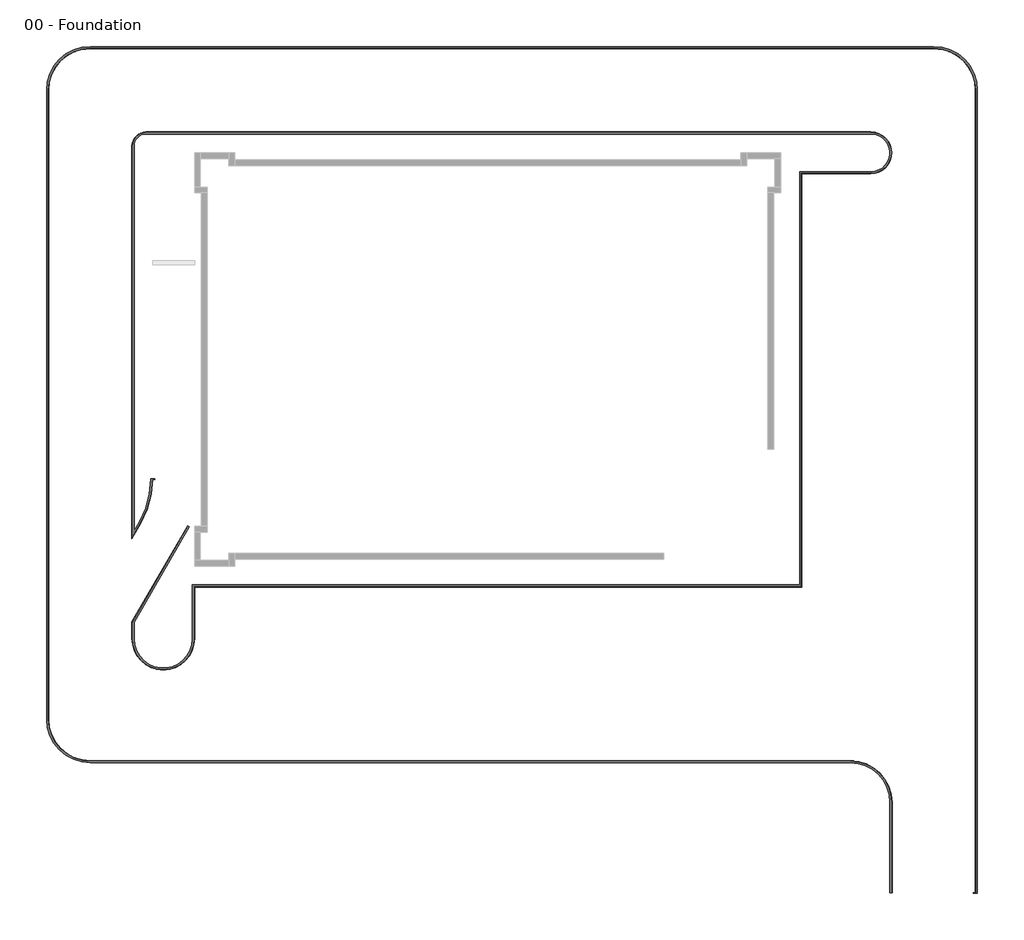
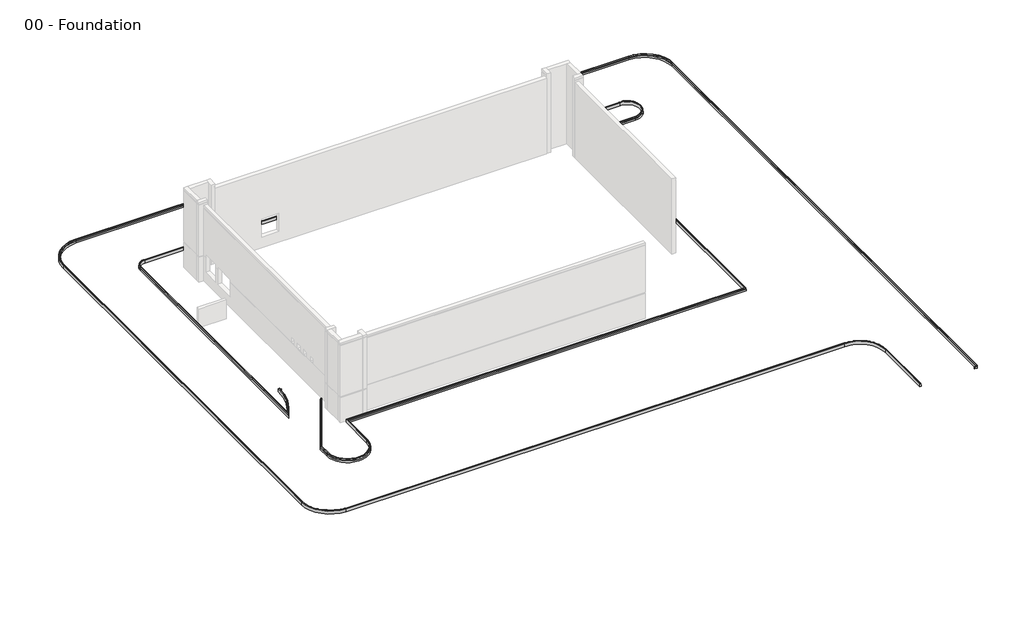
# One storey, part 2 of 2: 1 proxy.
"""IFC4 building model written with IfcOpenShell, lengths in millimetres."""

from ifc_helpers import new_model, si_unit, point, frame, origin, place, context, project, spatial, polyline, circle_curve, ellipse_curve, trimmed, element, save
from ifc_brep_helpers import plane_surface, cylinder_surface, revolved_surface, advanced_brep

model = new_model("IFC4")

# Units and contexts
model_context = context("Model", 3, world=origin())
ifc_project = project(units=[si_unit("LENGTHUNIT", "METRE", prefix="MILLI")], contexts=[model_context])

# Site, building, storey
site = spatial("IfcSite", under=ifc_project)
building = spatial("IfcBuilding", under=site)
storey = spatial("IfcBuildingStorey", under=building, Name="00 - Foundation", Elevation=-1250.0)

# Proxy
placement = place(None, origin())
element("IfcBuildingElementProxy", 1, Name="Curb", ObjectType="Curb", at=placement, inside=storey, context=model_context, shape_type="AdvancedBrep", body=[
    advanced_brep(
    [(33302.6061884, -38456.9313057, -36.4135952), (33280.5272279, -38456.9313057, -150.0), (33130.5272279, -38456.9313057, -150.0), (33130.5272279, -38456.9313057, -350.0), (33430.5272279, -38456.9313057, -350.0), (33430.5272279, -38456.9313057, 0.0), (33346.7794117, -38456.9313057, 0.0), (33302.6061884, 19343.0686943, -36.4135952), (33280.5272279, 19343.0686943, -150.0), (33280.5272279, -38406.9313057, -150.0), (33130.5272279, -38406.9313057, -150.0), (33130.5272279, -38406.9313057, -350.0), (33280.5272279, -38406.9313057, -350.0), (33280.5272279, 19343.0686943, -350.0), (33430.5272279, 19343.0686943, -350.0), (33430.5272279, 19343.0686943, 0.0), (33346.7794117, 19343.0686943, 0.0), (30280.5272279, 22343.0686943, -150.0), (30280.5272279, 22343.0686943, -350.0), (27280.5272279, -38406.9313057, -150.0), (27258.4482674, -38406.9313057, -36.4135952), (27214.2750442, -38406.9313057, 0.0), (27130.5272279, -38406.9313057, 0.0), (27130.5272279, -38406.9313057, -350.0), (27280.5272279, -38406.9313057, -350.0), (27280.5272279, -31906.9313057, -150.0), (27258.4482674, -31906.9313057, -36.4135952), (27130.5272279, -31906.9313057, -350.0), (27280.5272279, -31906.9313057, -350.0), (27130.5272279, -31906.9313057, 0.0), (27214.2750442, -31906.9313057, 0.0), (24280.5272279, -28906.9313057, -350.0), (24280.5272279, -28906.9313057, -150.0), (24280.5272279, -28929.0102661, -36.4135952), (24280.5272279, -29056.9313057, -350.0), (24280.5272279, -29056.9313057, 0.0), (24280.5272279, -28973.1834894, 0.0), (-30419.4727721, -28906.9313057, -350.0), (-30419.4727721, -28906.9313057, -150.0), (-30419.4727721, -28929.0102661, -36.4135952), (-30419.4727721, -29056.9313057, -350.0), (-30419.4727721, -29056.9313057, 0.0), (-30419.4727721, -28973.1834894, 0.0), (-33419.4727721, -25906.9313057, -350.0), (-33419.4727721, -25906.9313057, -150.0), (-33419.4727721, 19343.0686943, -150.0), (-33419.4727721, 19343.0686943, -350.0), (-30419.4727721, 22343.0686943, -350.0), (-30419.4727721, 22343.0686943, -150.0), (-33441.5517326, -25906.9313057, -36.4135952), (-33569.4727721, -25906.9313057, -350.0), (-33569.4727721, -25906.9313057, 0.0), (-33485.7249558, -25906.9313057, 0.0), (-33441.5517326, 19343.0686943, -36.4135952), (-33569.4727721, 19343.0686943, -350.0), (-33569.4727721, 19343.0686943, 0.0), (-33485.7249558, 19343.0686943, 0.0), (-30419.4727721, 22365.1476548, -36.4135952), (-30419.4727721, 22493.0686943, -350.0), (-30419.4727721, 22493.0686943, 0.0), (-30419.4727721, 22409.3208781, 0.0), (30280.5272279, 22365.1476548, -36.4135952), (30280.5272279, 22493.0686943, -350.0), (30280.5272279, 22493.0686943, 0.0), (30280.5272279, 22409.3208781, 0.0)],
    [
        (0, 1),
        (1, 2),
        (2, 3),
        (3, 4),
        (4, 5),
        (5, 6),
        (6, 0, circle_curve(frame((33346.7794117, -38456.9313057, -45.0), z_axis=(0.0, -1.0, 0.0), x_axis=(1.0, 0.0, 0.0)), 45.0)),
        (0, 7),
        (7, 8),
        (8, 9),
        (9, 1),
        (9, 10),
        (10, 2),
        (10, 11),
        (11, 3),
        (11, 12),
        (12, 13),
        (13, 14),
        (14, 4),
        (14, 15),
        (15, 5),
        (15, 16),
        (16, 6),
        (16, 7, circle_curve(frame((33346.7794117, 19343.0686943, -45.0), z_axis=(0.0, -1.0, 0.0), x_axis=(1.0, 0.0, 0.0)), 45.0)),
        (13, 8),
        (8, 17, circle_curve(frame((30280.5272279, 19343.0686943, -150.0), z_axis=(0.0, 0.0, 1.0), x_axis=(1.0, 0.0, 0.0)), 3000.0)),
        (17, 18),
        (18, 13, circle_curve(frame((30280.5272279, 19343.0686943, -350.0), z_axis=(0.0, 0.0, -1.0), x_axis=(1.0, 0.0, 0.0)), 3000.0)),
        (12, 9),
        (19, 20),
        (20, 21, circle_curve(frame((27214.2750442, -38406.9313057, -45.0), z_axis=(0.0, -1.0, 0.0), x_axis=(-1.0, 0.0, 0.0)), 45.0)),
        (21, 22),
        (22, 23),
        (23, 24),
        (24, 19),
        (25, 26),
        (26, 20),
        (19, 25),
        (23, 27),
        (27, 28),
        (28, 24),
        (29, 27),
        (22, 29),
        (30, 29),
        (21, 30),
        (26, 30, circle_curve(frame((27214.2750442, -31906.9313057, -45.0), z_axis=(0.0, -1.0, 0.0), x_axis=(-1.0, 0.0, 0.0)), 45.0)),
        (28, 25),
        (28, 31, circle_curve(frame((24280.5272279, -31906.9313057, -350.0), z_axis=(0.0, 0.0, 1.0), x_axis=(1.0, 0.0, 0.0)), 3000.0)),
        (31, 32),
        (32, 25, circle_curve(frame((24280.5272279, -31906.9313057, -150.0), z_axis=(0.0, 0.0, -1.0), x_axis=(1.0, 0.0, 0.0)), 3000.0)),
        (32, 33),
        (33, 26, circle_curve(frame((24280.5272279, -31906.9313057, -36.4135952), z_axis=(0.0, 0.0, -1.0), x_axis=(0.0, 1.0, 0.0)), 2977.9210395)),
        (27, 34, circle_curve(frame((24280.5272279, -31906.9313057, -350.0), z_axis=(0.0, 0.0, 1.0), x_axis=(0.0, 1.0, 0.0)), 2850.0)),
        (34, 31),
        (29, 35, circle_curve(frame((24280.5272279, -31906.9313057, 0.0), z_axis=(0.0, 0.0, 1.0), x_axis=(0.0, 1.0, 0.0)), 2850.0)),
        (35, 34),
        (30, 36, circle_curve(frame((24280.5272279, -31906.9313057, 0.0), z_axis=(0.0, 0.0, 1.0), x_axis=(0.0, 1.0, 0.0)), 2933.7478163)),
        (36, 35),
        (33, 36, circle_curve(frame((24280.5272279, -28973.1834894, -45.0), z_axis=(1.0, 0.0, 0.0), x_axis=(0.0, -1.0, 0.0)), 45.0)),
        (31, 37),
        (37, 38),
        (38, 32),
        (38, 39),
        (39, 33),
        (34, 40),
        (40, 37),
        (35, 41),
        (41, 40),
        (36, 42),
        (42, 41),
        (39, 42, circle_curve(frame((-30419.4727721, -28973.1834894, -45.0), z_axis=(1.0, 0.0, 0.0), x_axis=(0.0, -1.0, 0.0)), 45.0)),
        (37, 43, circle_curve(frame((-30419.4727721, -25906.9313057, -350.0), z_axis=(0.0, 0.0, -1.0), x_axis=(1.0, 0.0, 0.0)), 3000.0)),
        (43, 44),
        (44, 38, circle_curve(frame((-30419.4727721, -25906.9313057, -150.0), z_axis=(0.0, 0.0, 1.0), x_axis=(1.0, 0.0, 0.0)), 3000.0)),
        (45, 46),
        (46, 47, circle_curve(frame((-30419.4727721, 19343.0686943, -350.0), z_axis=(0.0, 0.0, -1.0), x_axis=(1.0, 0.0, 0.0)), 3000.0)),
        (47, 48),
        (48, 45, circle_curve(frame((-30419.4727721, 19343.0686943, -150.0), z_axis=(0.0, 0.0, 1.0), x_axis=(1.0, 0.0, 0.0)), 3000.0)),
        (44, 49),
        (49, 39, circle_curve(frame((-30419.4727721, -25906.9313057, -36.4135952), z_axis=(0.0, 0.0, 1.0), x_axis=(-1.0, 0.0, 0.0)), 3022.0789605)),
        (40, 50, circle_curve(frame((-30419.4727721, -25906.9313057, -350.0), z_axis=(0.0, 0.0, -1.0), x_axis=(-1.0, 0.0, 0.0)), 3150.0)),
        (50, 43),
        (41, 51, circle_curve(frame((-30419.4727721, -25906.9313057, 0.0), z_axis=(0.0, 0.0, -1.0), x_axis=(-1.0, 0.0, 0.0)), 3150.0)),
        (51, 50),
        (42, 52, circle_curve(frame((-30419.4727721, -25906.9313057, 0.0), z_axis=(0.0, 0.0, -1.0), x_axis=(-1.0, 0.0, 0.0)), 3066.2521837)),
        (52, 51),
        (49, 52, circle_curve(frame((-33485.7249558, -25906.9313057, -45.0), z_axis=(0.0, -1.0, 0.0), x_axis=(-1.0, 0.0, 0.0)), 45.0)),
        (43, 46),
        (45, 44),
        (45, 53),
        (53, 49),
        (50, 54),
        (54, 46),
        (51, 55),
        (55, 54),
        (52, 56),
        (56, 55),
        (53, 56, circle_curve(frame((-33485.7249558, 19343.0686943, -45.0), z_axis=(0.0, -1.0, 0.0), x_axis=(-1.0, 0.0, 0.0)), 45.0)),
        (48, 57),
        (57, 53, circle_curve(frame((-30419.4727721, 19343.0686943, -36.4135952), z_axis=(0.0, 0.0, 1.0), x_axis=(0.0, 1.0, 0.0)), 3022.0789605)),
        (54, 58, circle_curve(frame((-30419.4727721, 19343.0686943, -350.0), z_axis=(0.0, 0.0, -1.0), x_axis=(0.0, 1.0, 0.0)), 3150.0)),
        (58, 47),
        (55, 59, circle_curve(frame((-30419.4727721, 19343.0686943, 0.0), z_axis=(0.0, 0.0, -1.0), x_axis=(0.0, 1.0, 0.0)), 3150.0)),
        (59, 58),
        (56, 60, circle_curve(frame((-30419.4727721, 19343.0686943, 0.0), z_axis=(0.0, 0.0, -1.0), x_axis=(0.0, 1.0, 0.0)), 3066.2521837)),
        (60, 59),
        (57, 60, circle_curve(frame((-30419.4727721, 22409.3208781, -45.0), z_axis=(-1.0, 0.0, 0.0), x_axis=(0.0, 1.0, 0.0)), 45.0)),
        (47, 18),
        (17, 48),
        (17, 61),
        (61, 57),
        (58, 62),
        (62, 18),
        (59, 63),
        (63, 62),
        (60, 64),
        (64, 63),
        (61, 64, circle_curve(frame((30280.5272279, 22409.3208781, -45.0), z_axis=(-1.0, 0.0, 0.0), x_axis=(0.0, 1.0, 0.0)), 45.0)),
        (7, 61, circle_curve(frame((30280.5272279, 19343.0686943, -36.4135952), z_axis=(0.0, 0.0, 1.0), x_axis=(1.0, 0.0, 0.0)), 3022.0789605)),
        (62, 14, circle_curve(frame((30280.5272279, 19343.0686943, -350.0), z_axis=(0.0, 0.0, -1.0), x_axis=(1.0, 0.0, 0.0)), 3150.0)),
        (63, 15, circle_curve(frame((30280.5272279, 19343.0686943, 0.0), z_axis=(0.0, 0.0, -1.0), x_axis=(1.0, 0.0, 0.0)), 3150.0)),
        (64, 16, circle_curve(frame((30280.5272279, 19343.0686943, 0.0), z_axis=(0.0, 0.0, -1.0), x_axis=(1.0, 0.0, 0.0)), 3066.2521837)),
    ],
    [
        plane_surface(frame((33030.5272279, -38456.9313057, -150.0), z_axis=(0.0, -1.0, 0.0), x_axis=(0.0, 0.0, 1.0))),
        plane_surface(frame((33302.6061884, -38456.9313057, -36.4135952), z_axis=(-0.9816271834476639, 0.0, 0.1908089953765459), x_axis=(0.0, 1.0, 0.0))),
        plane_surface(frame((33280.5272279, -38456.9313057, -150.0), z_axis=(0.0, 0.0, 1.0), x_axis=(0.0, 1.0, 0.0))),
        plane_surface(frame((33130.5272279, -38456.9313057, -150.0), z_axis=(-1.0, 0.0, 0.0), x_axis=(0.0, 1.0, 0.0))),
        plane_surface(frame((33130.5272279, -38456.9313057, -350.0), z_axis=(0.0, 0.0, -1.0), x_axis=(0.0, 1.0, 0.0))),
        plane_surface(frame((33430.5272279, -38456.9313057, -350.0), z_axis=(1.0, 0.0, 0.0), x_axis=(0.0, 1.0, 0.0))),
        plane_surface(frame((33430.5272279, -38456.9313057, 0.0), z_axis=(0.0, 0.0, 1.0), x_axis=(0.0, 1.0, 0.0))),
        cylinder_surface(frame((33346.7794117, -38456.9313057, -45.0), z_axis=(0.0, -1.0, 0.0), x_axis=(1.0, 0.0, 0.0)), 45.0),
        revolved_surface(polyline([(33280.5272279, 19343.0686943, -350.0), (33280.5272279, 19343.0686943, -150.0)]), (30280.5272279, 19343.0686943, -150.0), (0.0, 0.0, -1.0)),
        plane_surface(frame((33280.5272279, 19343.0686943, -2350.0), z_axis=(-1.0, 0.0, 0.0), x_axis=(0.0, 0.0, 1.0))),
        plane_surface(frame((33280.5272279, -38406.9313057, -2350.0), z_axis=(0.0, 1.0, 0.0), x_axis=(0.0, 0.0, 1.0))),
        plane_surface(frame((27030.5272279, -38406.9313057, -150.0), z_axis=(0.0, -1.0, 0.0), x_axis=(0.0, 0.0, -1.0))),
        plane_surface(frame((27258.4482674, -31906.9313057, -36.4135952), z_axis=(0.9816271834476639, 0.0, 0.1908089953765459), x_axis=(0.0, -1.0, 0.0))),
        plane_surface(frame((27430.5272279, -31906.9313057, -350.0), z_axis=(0.0, 0.0, -1.0), x_axis=(0.0, -1.0, 0.0))),
        plane_surface(frame((27130.5272279, -31906.9313057, -350.0), z_axis=(-1.0, 0.0, 0.0), x_axis=(0.0, -1.0, 0.0))),
        plane_surface(frame((27130.5272279, -31906.9313057, 0.0), z_axis=(0.0, 0.0, 1.0), x_axis=(0.0, -1.0, 0.0))),
        cylinder_surface(frame((27214.2750442, -31906.9313057, -45.0), z_axis=(0.0, 1.0, 0.0), x_axis=(-1.0, 0.0, 0.0)), 45.0),
        plane_surface(frame((27280.5272279, -38406.9313057, -2350.0), z_axis=(1.0, 0.0, 0.0), x_axis=(0.0, 0.0, 1.0))),
        cylinder_surface(frame((24280.5272279, -31906.9313057, -150.0), z_axis=(0.0, 0.0, 1.0), x_axis=(1.0, 0.0, 0.0)), 3000.0),
        revolved_surface(polyline([(24280.5272279, -28929.0102661, -36.4135952), (24280.5272279, -28906.9313057, -150.0)]), (24280.5272279, -31906.9313057, -150.0), (0.0, 0.0, -1.0)),
        plane_surface(frame((24280.5272279, -31906.9313057, -350.0), z_axis=(0.0, 0.0, -1.0), x_axis=(0.0, 1.0, 0.0))),
        revolved_surface(polyline([(24280.5272279, -29056.9313057, -350.0), (24280.5272279, -29056.9313057, 0.0)]), (24280.5272279, -31906.9313057, -150.0), (0.0, 0.0, -1.0)),
        plane_surface(frame((24280.5272279, -31906.9313057, 0.0), z_axis=(0.0, 0.0, 1.0), x_axis=(0.0, 1.0, 0.0))),
        revolved_surface(trimmed(ellipse_curve(frame((24280.5272279, -28973.1834894, -45.0), z_axis=(-1.0, 0.0, 0.0), x_axis=(0.0, -1.0, 0.0)), 45.0, 45.0), [point((24280.5272279, -28973.1834894, 0.0))], [point((24280.5272279, -28929.0102661, -36.4135952))], True, "CARTESIAN"), (24280.5272279, -31906.9313057, -150.0), (0.0, 0.0, -1.0)),
        plane_surface(frame((24280.5272279, -28906.9313057, -2350.0), z_axis=(0.0, 1.0, 0.0), x_axis=(0.0, 0.0, 1.0))),
        plane_surface(frame((-30419.4727721, -28929.0102661, -36.4135952), z_axis=(0.0, 0.9816271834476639, 0.1908089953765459), x_axis=(1.0, 0.0, 0.0))),
        plane_surface(frame((-30419.4727721, -28756.9313057, -350.0), z_axis=(0.0, 0.0, -1.0), x_axis=(1.0, 0.0, 0.0))),
        plane_surface(frame((-30419.4727721, -29056.9313057, -350.0), z_axis=(0.0, -1.0, 0.0), x_axis=(1.0, 0.0, 0.0))),
        plane_surface(frame((-30419.4727721, -29056.9313057, 0.0), z_axis=(0.0, 0.0, 1.0), x_axis=(1.0, 0.0, 0.0))),
        cylinder_surface(frame((-30419.4727721, -28973.1834894, -45.0), z_axis=(-1.0, 0.0, 0.0), x_axis=(0.0, -1.0, 0.0)), 45.0),
        revolved_surface(polyline([(-27419.4727721, -25906.9313057, -350.0), (-27419.4727721, -25906.9313057, -150.0)]), (-30419.4727721, -25906.9313057, -150.0), (0.0, 0.0, -1.0)),
        revolved_surface(polyline([(-27419.4727721, 19343.0686943, -350.0), (-27419.4727721, 19343.0686943, -150.0)]), (-30419.4727721, 19343.0686943, -150.0), (0.0, 0.0, -1.0)),
        revolved_surface(polyline([(-33441.5517326, -25906.9313057, -36.4135952), (-33419.4727721, -25906.9313057, -150.0)]), (-30419.4727721, -25906.9313057, -150.0), (0.0, 0.0, 1.0)),
        plane_surface(frame((-30419.4727721, -25906.9313057, -350.0), z_axis=(0.0, 0.0, -1.0), x_axis=(-1.0, 0.0, 0.0))),
        cylinder_surface(frame((-30419.4727721, -25906.9313057, -150.0), z_axis=(0.0, 0.0, 1.0), x_axis=(-1.0, 0.0, 0.0)), 3150.0),
        plane_surface(frame((-30419.4727721, -25906.9313057, 0.0), z_axis=(0.0, 0.0, 1.0), x_axis=(-1.0, 0.0, 0.0))),
        revolved_surface(trimmed(ellipse_curve(frame((-33485.7249558, -25906.9313057, -45.0), z_axis=(0.0, 1.0, 0.0), x_axis=(-1.0, 0.0, 0.0)), 45.0, 45.0), [point((-33485.7249558, -25906.9313057, 0.0))], [point((-33441.5517326, -25906.9313057, -36.4135952))], True, "CARTESIAN"), (-30419.4727721, -25906.9313057, -150.0), (0.0, 0.0, 1.0)),
        plane_surface(frame((-33419.4727721, -25906.9313057, -2350.0), z_axis=(1.0, 0.0, 0.0), x_axis=(0.0, 0.0, 1.0))),
        plane_surface(frame((-33441.5517326, 19343.0686943, -36.4135952), z_axis=(0.9816271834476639, 0.0, 0.1908089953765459), x_axis=(0.0, -1.0, 0.0))),
        plane_surface(frame((-33269.4727721, 19343.0686943, -350.0), z_axis=(0.0, 0.0, -1.0), x_axis=(0.0, -1.0, 0.0))),
        plane_surface(frame((-33569.4727721, 19343.0686943, -350.0), z_axis=(-1.0, 0.0, 0.0), x_axis=(0.0, -1.0, 0.0))),
        plane_surface(frame((-33569.4727721, 19343.0686943, 0.0), z_axis=(0.0, 0.0, 1.0), x_axis=(0.0, -1.0, 0.0))),
        cylinder_surface(frame((-33485.7249558, 19343.0686943, -45.0), z_axis=(0.0, 1.0, 0.0), x_axis=(-1.0, 0.0, 0.0)), 45.0),
        revolved_surface(polyline([(-30419.4727721, 22365.1476548, -36.4135952), (-30419.4727721, 22343.0686943, -150.0)]), (-30419.4727721, 19343.0686943, -150.0), (0.0, 0.0, 1.0)),
        plane_surface(frame((-30419.4727721, 19343.0686943, -350.0), z_axis=(0.0, 0.0, -1.0), x_axis=(0.0, 1.0, 0.0))),
        cylinder_surface(frame((-30419.4727721, 19343.0686943, -150.0), z_axis=(0.0, 0.0, 1.0), x_axis=(0.0, 1.0, 0.0)), 3150.0),
        plane_surface(frame((-30419.4727721, 19343.0686943, 0.0), z_axis=(0.0, 0.0, 1.0), x_axis=(0.0, 1.0, 0.0))),
        revolved_surface(trimmed(ellipse_curve(frame((-30419.4727721, 22409.3208781, -45.0), z_axis=(1.0, 0.0, 0.0), x_axis=(0.0, 1.0, 0.0)), 45.0, 45.0), [point((-30419.4727721, 22409.3208781, 0.0))], [point((-30419.4727721, 22365.1476548, -36.4135952))], True, "CARTESIAN"), (-30419.4727721, 19343.0686943, -150.0), (0.0, 0.0, 1.0)),
        plane_surface(frame((-30419.4727721, 22343.0686943, -2350.0), z_axis=(0.0, -1.0, 0.0), x_axis=(0.0, 0.0, 1.0))),
        plane_surface(frame((30280.5272279, 22365.1476548, -36.4135952), z_axis=(0.0, -0.9816271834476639, 0.1908089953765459), x_axis=(-1.0, 0.0, 0.0))),
        plane_surface(frame((30280.5272279, 22193.0686943, -350.0), z_axis=(0.0, 0.0, -1.0), x_axis=(-1.0, 0.0, 0.0))),
        plane_surface(frame((30280.5272279, 22493.0686943, -350.0), z_axis=(0.0, 1.0, 0.0), x_axis=(-1.0, 0.0, 0.0))),
        plane_surface(frame((30280.5272279, 22493.0686943, 0.0), z_axis=(0.0, 0.0, 1.0), x_axis=(-1.0, 0.0, 0.0))),
        cylinder_surface(frame((30280.5272279, 22409.3208781, -45.0), z_axis=(1.0, 0.0, 0.0), x_axis=(0.0, 1.0, 0.0)), 45.0),
        revolved_surface(polyline([(33302.6061884, 19343.0686943, -36.4135952), (33280.5272279, 19343.0686943, -150.0)]), (30280.5272279, 19343.0686943, -150.0), (0.0, 0.0, 1.0)),
        plane_surface(frame((30280.5272279, 19343.0686943, -350.0), z_axis=(0.0, 0.0, -1.0), x_axis=(1.0, 0.0, 0.0))),
        cylinder_surface(frame((30280.5272279, 19343.0686943, -150.0), z_axis=(0.0, 0.0, 1.0), x_axis=(1.0, 0.0, 0.0)), 3150.0),
        plane_surface(frame((30280.5272279, 19343.0686943, 0.0), z_axis=(0.0, 0.0, 1.0), x_axis=(1.0, 0.0, 0.0))),
        revolved_surface(trimmed(ellipse_curve(frame((33346.7794117, 19343.0686943, -45.0), z_axis=(0.0, -1.0, 0.0), x_axis=(1.0, 0.0, 0.0)), 45.0, 45.0), [point((33346.7794117, 19343.0686943, 0.0))], [point((33302.6061884, 19343.0686943, -36.4135952))], True, "CARTESIAN"), (30280.5272279, 19343.0686943, -150.0), (0.0, 0.0, 1.0)),
    ],
    [
        (0, [[1, 2, 3, 4, 5, 6, 7]]),
        (1, [[-1, 8, 9, 10, 11]]),
        (2, [[-2, -11, 12, 13]]),
        (3, [[-3, -13, 14, 15]]),
        (4, [[-4, -15, 16, 17, 18, 19]]),
        (5, [[-5, -19, 20, 21]]),
        (6, [[-6, -21, 22, 23]]),
        (7, [[-7, -23, 24, -8]]),
        (8, [[25, 26, 27, 28]]),
        (9, [[-25, -17, 29, -10]]),
        (10, [[-29, -16, -14, -12]]),
        (11, [[30, 31, 32, 33, 34, 35]]),
        (12, [[36, 37, -30, 38]]),
        (13, [[39, 40, 41, -34]]),
        (14, [[42, -39, -33, 43]]),
        (15, [[44, -43, -32, 45]]),
        (16, [[46, -45, -31, -37]]),
        (17, [[47, -38, -35, -41]]),
        (18, [[-47, 48, 49, 50]]),
        (19, [[-36, -50, 51, 52]]),
        (20, [[53, 54, -48, -40]]),
        (21, [[-42, 55, 56, -53]]),
        (22, [[-44, 57, 58, -55]]),
        (23, [[-46, -52, 59, -57]]),
        (24, [[-49, 60, 61, 62]]),
        (25, [[-51, -62, 63, 64]]),
        (26, [[65, 66, -60, -54]]),
        (27, [[-56, 67, 68, -65]]),
        (28, [[-58, 69, 70, -67]]),
        (29, [[-59, -64, 71, -69]]),
        (30, [[-61, 72, 73, 74]]),
        (31, [[75, 76, 77, 78]]),
        (32, [[-63, -74, 79, 80]]),
        (33, [[81, 82, -72, -66]]),
        (34, [[-68, 83, 84, -81]]),
        (35, [[-70, 85, 86, -83]]),
        (36, [[-71, -80, 87, -85]]),
        (37, [[-73, 88, -75, 89]]),
        (38, [[-79, -89, 90, 91]]),
        (39, [[92, 93, -88, -82]]),
        (40, [[-84, 94, 95, -92]]),
        (41, [[-86, 96, 97, -94]]),
        (42, [[-87, -91, 98, -96]]),
        (43, [[-90, -78, 99, 100]]),
        (44, [[101, 102, -76, -93]]),
        (45, [[-95, 103, 104, -101]]),
        (46, [[-97, 105, 106, -103]]),
        (47, [[-98, -100, 107, -105]]),
        (48, [[-77, 108, -27, 109]]),
        (49, [[-99, -109, 110, 111]]),
        (50, [[112, 113, -108, -102]]),
        (51, [[-104, 114, 115, -112]]),
        (52, [[-106, 116, 117, -114]]),
        (53, [[-107, -111, 118, -116]]),
        (54, [[-110, -26, -9, 119]]),
        (55, [[120, -18, -28, -113]]),
        (56, [[-115, 121, -20, -120]]),
        (57, [[-117, 122, -22, -121]]),
        (58, [[-118, -119, -24, -122]]),
    ],
),
    advanced_brep(
    [(25767.0057917, 16343.0686943, -350.0), (25767.0057917, 16343.0686943, -150.0), (25767.0057917, 13343.0686943, -150.0), (25767.0057917, 13343.0686943, -350.0), (-26419.4727721, 16343.0686943, -350.0), (-26419.4727721, 16343.0686943, -150.0), (20780.5272279, 13343.0686943, -150.0), (20780.5272279, 13343.0686943, -350.0), (-27419.4727721, 15343.0686943, -350.0), (-27419.4727721, 15343.0686943, -150.0), (-27419.4727721, -20131.4306768, -350.0), (-27419.4727721, -20131.4306768, -150.0), (-27419.4727721, -18919.4602417, -150.0), (-27419.4727721, -18919.4602417, -350.0), (-22919.4727721, -20131.4306768, -350.0), (-22919.4727721, -20131.4306768, -150.0), (-22919.4727721, -16406.9313057, -350.0), (-22919.4727721, -16406.9313057, -150.0), (20780.5272279, -16406.9313057, -350.0), (20780.5272279, -16406.9313057, -150.0), (-27419.4727721, -12919.4602417, -350.0), (-27419.4727721, -12919.4602417, -150.0), (-26776.9101879, -11806.5091988, -350.0), (-26776.9101879, -11806.5091988, -150.0), (-25919.4727721, -8606.5091988, -350.0), (-25919.4727721, -8606.5091988, -150.0), (-23415.1787781, -11983.8195957, -150.0), (-23415.1787781, -11983.8195957, -350.0), (-26419.4727721, 16320.9897339, -36.4135952), (25767.0057917, 16320.9897339, -36.4135952), (25767.0057917, 16193.0686943, -350.0), (-26419.4727721, 16193.0686943, -350.0), (-26419.4727721, 16193.0686943, 0.0), (25767.0057917, 16193.0686943, 0.0), (-26419.4727721, 16276.8165106, 0.0), (25767.0057917, 16276.8165106, 0.0), (25767.0057917, 13365.1476548, -36.4135952), (25767.0057917, 13493.0686943, -350.0), (25767.0057917, 13493.0686943, 0.0), (25767.0057917, 13409.3208781, 0.0), (20758.4482674, 13365.1476548, -36.4135952), (20630.5272279, 13493.0686943, -350.0), (20630.5272279, 13493.0686943, 0.0), (20714.2750442, 13409.3208781, 0.0), (20758.4482674, -16384.8523452, -36.4135952), (20630.5272279, -16256.9313057, -350.0), (20630.5272279, -16256.9313057, 0.0), (20714.2750442, -16340.6791219, 0.0), (-22941.5517326, -16384.8523452, -36.4135952), (-23069.4727721, -16256.9313057, -350.0), (-23069.4727721, -16256.9313057, 0.0), (-22985.7249558, -16340.6791219, 0.0), (-22941.5517326, -20131.4306768, -36.4135952), (-23069.4727721, -20131.4306768, -350.0), (-23069.4727721, -20131.4306768, 0.0), (-22985.7249558, -20131.4306768, 0.0), (-27397.3938116, -20131.4306768, -36.4135952), (-27269.4727721, -20131.4306768, -350.0), (-27269.4727721, -20131.4306768, 0.0), (-27353.2205883, -20131.4306768, 0.0), (-27397.3938116, -18925.3762814, -36.4135952), (-27269.4727721, -18959.6526206, -350.0), (-27269.4727721, -18959.6526206, 0.0), (-27353.2205883, -18937.2124609, 0.0), (-23396.0578374, -11994.8590759, -36.4135952), (-23357.8027039, -12016.9456875, 0.0), (-23285.2749675, -12058.8195957, 0.0), (-23285.2749675, -12058.8195957, -350.0), (-26796.0311285, -11795.4697186, -36.4135952), (-27397.3938116, -12837.0604394, -36.4135952), (-27269.4727721, -12359.6526206, -350.0), (-26906.8139984, -11731.5091988, -350.0), (-26906.8139984, -11731.5091988, 0.0), (-27269.4727721, -12359.6526206, 0.0), (-26834.286262, -11773.3831069, 0.0), (-27353.2205883, -12672.2037259, 0.0), (-25941.5517326, -8606.5091988, -36.4135952), (-26069.4727721, -8606.5091988, -350.0), (-26069.4727721, -8606.5091988, 0.0), (-25985.7249558, -8606.5091988, 0.0), (-27397.3938116, 15343.0686943, -36.4135952), (-27269.4727721, 15343.0686943, -350.0), (-27269.4727721, 15343.0686943, 0.0), (-27353.2205883, 15343.0686943, 0.0)],
    [
        (0, 1),
        (1, 2, circle_curve(frame((25767.0057917, 14843.0686943, -150.0), z_axis=(0.0, 0.0, -1.0), x_axis=(1.0, 0.0, 0.0)), 1500.0)),
        (2, 3),
        (3, 0, circle_curve(frame((25767.0057917, 14843.0686943, -350.0), z_axis=(0.0, 0.0, 1.0), x_axis=(1.0, 0.0, 0.0)), 1500.0)),
        (0, 4),
        (4, 5),
        (5, 1),
        (2, 6),
        (6, 7),
        (7, 3),
        (8, 9),
        (9, 5, circle_curve(frame((-26419.4727721, 15343.0686943, -150.0), z_axis=(0.0, 0.0, -1.0), x_axis=(1.0, 0.0, 0.0)), 1000.0)),
        (4, 8, circle_curve(frame((-26419.4727721, 15343.0686943, -350.0), z_axis=(0.0, 0.0, 1.0), x_axis=(1.0, 0.0, 0.0)), 1000.0)),
        (10, 11),
        (11, 12),
        (12, 13),
        (13, 10),
        (14, 15),
        (15, 11, circle_curve(frame((-25169.4727721, -20131.4306768, -150.0), z_axis=(0.0, 0.0, -1.0), x_axis=(1.0, 0.0, 0.0)), 2250.0)),
        (10, 14, circle_curve(frame((-25169.4727721, -20131.4306768, -350.0), z_axis=(0.0, 0.0, 1.0), x_axis=(1.0, 0.0, 0.0)), 2250.0)),
        (16, 17),
        (17, 15),
        (14, 16),
        (18, 19),
        (19, 17),
        (16, 18),
        (6, 19),
        (18, 7),
        (20, 21),
        (21, 9),
        (8, 20),
        (20, 22),
        (22, 23),
        (23, 21),
        (22, 24, circle_curve(frame((-32319.4727721, -8606.5091988, -350.0), z_axis=(0.0, 0.0, 1.0), x_axis=(1.0, 0.0, 0.0)), 6400.0)),
        (24, 25),
        (25, 23, circle_curve(frame((-32319.4727721, -8606.5091988, -150.0), z_axis=(0.0, 0.0, -1.0), x_axis=(1.0, 0.0, 0.0)), 6400.0)),
        (12, 26),
        (26, 27),
        (27, 13),
        (5, 28),
        (28, 29),
        (29, 1),
        (30, 31),
        (31, 4),
        (0, 30),
        (32, 31),
        (30, 33),
        (33, 32),
        (34, 32),
        (33, 35),
        (35, 34),
        (28, 34, circle_curve(frame((-26419.4727721, 16276.8165106, -45.0), z_axis=(1.0, 0.0, 0.0), x_axis=(0.0, -1.0, 0.0)), 45.0)),
        (35, 29, circle_curve(frame((25767.0057917, 16276.8165106, -45.0), z_axis=(-1.0, 0.0, 0.0), x_axis=(0.0, -1.0, 0.0)), 45.0)),
        (29, 36, circle_curve(frame((25767.0057917, 14843.0686943, -36.4135952), z_axis=(0.0, 0.0, -1.0), x_axis=(0.0, 1.0, 0.0)), 1477.9210395)),
        (36, 2),
        (37, 30, circle_curve(frame((25767.0057917, 14843.0686943, -350.0), z_axis=(0.0, 0.0, 1.0), x_axis=(0.0, 1.0, 0.0)), 1350.0)),
        (3, 37),
        (37, 38),
        (38, 33, circle_curve(frame((25767.0057917, 14843.0686943, 0.0), z_axis=(0.0, 0.0, 1.0), x_axis=(0.0, 1.0, 0.0)), 1350.0)),
        (38, 39),
        (39, 35, circle_curve(frame((25767.0057917, 14843.0686943, 0.0), z_axis=(0.0, 0.0, 1.0), x_axis=(0.0, 1.0, 0.0)), 1433.7478163)),
        (39, 36, circle_curve(frame((25767.0057917, 13409.3208781, -45.0), z_axis=(1.0, 0.0, 0.0), x_axis=(0.0, 1.0, 0.0)), 45.0)),
        (36, 40),
        (40, 6),
        (41, 37),
        (7, 41),
        (41, 42),
        (42, 38),
        (42, 43),
        (43, 39),
        (43, 40, ellipse_curve(frame((20714.2750442, 13409.3208781, -45.0), z_axis=(0.7071067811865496, 0.7071067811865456, 0.0), x_axis=(0.7071067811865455, -0.7071067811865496, 0.0)), 63.6396103, 45.0)),
        (40, 44),
        (44, 19),
        (45, 41),
        (18, 45),
        (45, 46),
        (46, 42),
        (46, 47),
        (47, 43),
        (47, 44, ellipse_curve(frame((20714.2750442, -16340.6791219, -45.0), z_axis=(0.7071067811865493, 0.7071067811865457, 0.0), x_axis=(-0.7071067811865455, 0.7071067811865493, 0.0)), 63.6396103, 45.0)),
        (44, 48),
        (48, 17),
        (49, 45),
        (16, 49),
        (49, 50),
        (50, 46),
        (50, 51),
        (51, 47),
        (51, 48, ellipse_curve(frame((-22985.7249558, -16340.6791219, -45.0), z_axis=(0.7071067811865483, 0.7071067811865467, 0.0), x_axis=(0.7071067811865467, -0.7071067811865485, 0.0)), 63.6396103, 45.0)),
        (48, 52),
        (52, 15),
        (53, 49),
        (14, 53),
        (53, 54),
        (54, 50),
        (54, 55),
        (55, 51),
        (55, 52, circle_curve(frame((-22985.7249558, -20131.4306768, -45.0), z_axis=(0.0, 1.0, 0.0), x_axis=(-1.0, 0.0, 0.0)), 45.0)),
        (52, 56, circle_curve(frame((-25169.4727721, -20131.4306768, -36.4135952), z_axis=(0.0, 0.0, -1.0), x_axis=(1.0, 0.0, 0.0)), 2227.9210395)),
        (56, 11),
        (57, 53, circle_curve(frame((-25169.4727721, -20131.4306768, -350.0), z_axis=(0.0, 0.0, 1.0), x_axis=(1.0, 0.0, 0.0)), 2100.0)),
        (10, 57),
        (57, 58),
        (58, 54, circle_curve(frame((-25169.4727721, -20131.4306768, 0.0), z_axis=(0.0, 0.0, 1.0), x_axis=(1.0, 0.0, 0.0)), 2100.0)),
        (58, 59),
        (59, 55, circle_curve(frame((-25169.4727721, -20131.4306768, 0.0), z_axis=(0.0, 0.0, 1.0), x_axis=(1.0, 0.0, 0.0)), 2183.7478163)),
        (59, 56, circle_curve(frame((-27353.2205883, -20131.4306768, -45.0), z_axis=(0.0, -1.0, 0.0), x_axis=(1.0, 0.0, 0.0)), 45.0)),
        (56, 60),
        (60, 12),
        (61, 57),
        (13, 61),
        (61, 62),
        (62, 58),
        (62, 63),
        (63, 59),
        (63, 60, ellipse_curve(frame((-27353.2205883, -18937.2124609, -45.0), z_axis=(-0.2588190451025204, -0.9659258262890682, 0.0), x_axis=(0.9659258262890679, -0.25881904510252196, 0.0)), 46.5874281, 45.0)),
        (26, 64),
        (64, 65, circle_curve(frame((-23357.8027039, -12016.9456875, -45.0), z_axis=(0.5000000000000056, 0.8660254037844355, 0.0), x_axis=(0.8660254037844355, -0.5000000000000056, 0.0)), 45.0)),
        (65, 66),
        (66, 67),
        (67, 27),
        (60, 64),
        (67, 61),
        (66, 62),
        (65, 63),
        (23, 68),
        (68, 69),
        (69, 21),
        (70, 71),
        (71, 22),
        (20, 70),
        (72, 71),
        (70, 73),
        (73, 72),
        (74, 72),
        (73, 75),
        (75, 74),
        (68, 74, circle_curve(frame((-26834.286262, -11773.3831069, -45.0), z_axis=(-0.5000000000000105, -0.8660254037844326, 0.0), x_axis=(-0.8660254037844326, 0.5000000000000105, 0.0)), 45.0)),
        (75, 69, ellipse_curve(frame((-27353.2205883, -12672.2037259, -45.0), z_axis=(0.9659258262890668, -0.2588190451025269, 0.0), x_axis=(0.2588190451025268, 0.9659258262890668, 0.0)), 173.8666487, 45.0)),
        (76, 25),
        (24, 77),
        (77, 78),
        (78, 79),
        (79, 76, circle_curve(frame((-25985.7249558, -8606.5091988, -45.0), z_axis=(0.0, 1.0, 0.0), x_axis=(-1.0, 0.0, 0.0)), 45.0)),
        (76, 68, circle_curve(frame((-32319.4727721, -8606.5091988, -36.4135952), z_axis=(0.0, 0.0, -1.0), x_axis=(1.0, 0.0, 0.0)), 6377.9210395)),
        (71, 77, circle_curve(frame((-32319.4727721, -8606.5091988, -350.0), z_axis=(0.0, 0.0, 1.0), x_axis=(1.0, 0.0, 0.0)), 6250.0)),
        (72, 78, circle_curve(frame((-32319.4727721, -8606.5091988, 0.0), z_axis=(0.0, 0.0, 1.0), x_axis=(1.0, 0.0, 0.0)), 6250.0)),
        (74, 79, circle_curve(frame((-32319.4727721, -8606.5091988, 0.0), z_axis=(0.0, 0.0, 1.0), x_axis=(1.0, 0.0, 0.0)), 6333.7478163)),
        (69, 80),
        (80, 9),
        (81, 70),
        (8, 81),
        (81, 82),
        (82, 73),
        (82, 83),
        (83, 75),
        (83, 80, circle_curve(frame((-27353.2205883, 15343.0686943, -45.0), z_axis=(0.0, -1.0, 0.0), x_axis=(1.0, 0.0, 0.0)), 45.0)),
        (80, 28, circle_curve(frame((-26419.4727721, 15343.0686943, -36.4135952), z_axis=(0.0, 0.0, -1.0), x_axis=(-1.0, 0.0, 0.0)), 977.9210395)),
        (31, 81, circle_curve(frame((-26419.4727721, 15343.0686943, -350.0), z_axis=(0.0, 0.0, 1.0), x_axis=(-1.0, 0.0, 0.0)), 850.0)),
        (32, 82, circle_curve(frame((-26419.4727721, 15343.0686943, 0.0), z_axis=(0.0, 0.0, 1.0), x_axis=(-1.0, 0.0, 0.0)), 850.0)),
        (34, 83, circle_curve(frame((-26419.4727721, 15343.0686943, 0.0), z_axis=(0.0, 0.0, 1.0), x_axis=(-1.0, 0.0, 0.0)), 933.7478163)),
    ],
    [
        cylinder_surface(frame((25767.0057917, 14843.0686943, 0.0), z_axis=(0.0, 0.0, 1.0), x_axis=(1.0, 0.0, 0.0)), 1500.0),
        plane_surface(frame((25767.0057917, 16343.0686943, -2350.0), z_axis=(0.0, 1.0, 0.0), x_axis=(0.0, 0.0, 1.0))),
        plane_surface(frame((20780.5272279, 13343.0686943, -2350.0), z_axis=(0.0, -1.0, 0.0), x_axis=(0.0, 0.0, 1.0))),
        cylinder_surface(frame((-26419.4727721, 15343.0686943, 0.0), z_axis=(0.0, 0.0, 1.0), x_axis=(1.0, 0.0, 0.0)), 1000.0),
        plane_surface(frame((-27419.4727721, -18919.4602417, -2350.0), z_axis=(-1.0, 0.0, 0.0), x_axis=(0.0, 0.0, 1.0))),
        cylinder_surface(frame((-25169.4727721, -20131.4306768, 0.0), z_axis=(0.0, 0.0, 1.0), x_axis=(1.0, 0.0, 0.0)), 2250.0),
        plane_surface(frame((-22919.4727721, -20131.4306768, -2350.0), z_axis=(1.0, 0.0, 0.0), x_axis=(0.0, 0.0, 1.0))),
        plane_surface(frame((-22919.4727721, -16406.9313057, -2350.0), z_axis=(0.0, -1.0, 0.0), x_axis=(0.0, 0.0, 1.0))),
        plane_surface(frame((20780.5272279, -16406.9313057, -2350.0), z_axis=(1.0, 0.0, 0.0), x_axis=(0.0, 0.0, 1.0))),
        plane_surface(frame((-27419.4727721, 15343.0686943, -2350.0), z_axis=(-1.0, 0.0, 0.0), x_axis=(0.0, 0.0, 1.0))),
        plane_surface(frame((-27419.4727721, -12919.4602417, -2350.0), z_axis=(0.8660254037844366, -0.5000000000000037, 0.0), x_axis=(0.0, 0.0, 1.0))),
        cylinder_surface(frame((-32319.4727721, -8606.5091988, 0.0), z_axis=(0.0, 0.0, 1.0), x_axis=(1.0, 0.0, 0.0)), 6400.0),
        plane_surface(frame((-23415.1787781, -11983.8195957, -2350.0), z_axis=(-0.8660254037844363, 0.5000000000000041, 0.0), x_axis=(0.0, 0.0, 1.0))),
        plane_surface(frame((-26419.4727721, 16320.9897339, -36.4135952), z_axis=(0.0, 0.9816271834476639, 0.19080899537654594), x_axis=(1.0, 0.0, 0.0))),
        plane_surface(frame((-26419.4727721, 16493.0686943, -350.0), z_axis=(0.0, 0.0, -1.0), x_axis=(1.0, 0.0, 0.0))),
        plane_surface(frame((-26419.4727721, 16193.0686943, -350.0), z_axis=(0.0, -1.0, 0.0), x_axis=(1.0, 0.0, 0.0))),
        plane_surface(frame((-26419.4727721, 16193.0686943, 0.0), z_axis=(0.0, 0.0, 1.0), x_axis=(1.0, 0.0, 0.0))),
        cylinder_surface(frame((-26419.4727721, 16276.8165106, -45.0), z_axis=(-1.0, 0.0, 0.0), x_axis=(0.0, -1.0, 0.0)), 45.0),
        revolved_surface(polyline([(25767.0057917, 16320.9897339, -36.4135952), (25767.0057917, 16343.0686943, -150.0)]), (25767.0057917, 14843.0686943, -150.0), (0.0, 0.0, -1.0)),
        plane_surface(frame((25767.0057917, 14843.0686943, -350.0), z_axis=(0.0, 0.0, -1.0), x_axis=(0.0, 1.0, 0.0))),
        revolved_surface(polyline([(25767.0057917, 16193.0686943, -350.0), (25767.0057917, 16193.0686943, 0.0)]), (25767.0057917, 14843.0686943, -150.0), (0.0, 0.0, -1.0)),
        plane_surface(frame((25767.0057917, 14843.0686943, 0.0), z_axis=(0.0, 0.0, 1.0), x_axis=(0.0, 1.0, 0.0))),
        revolved_surface(trimmed(ellipse_curve(frame((25767.0057917, 16276.8165106, -45.0), z_axis=(-1.0, 0.0, 0.0), x_axis=(0.0, -1.0, 0.0)), 45.0, 45.0), [point((25767.0057917, 16276.8165106, 0.0))], [point((25767.0057917, 16320.9897339, -36.4135952))], True, "CARTESIAN"), (25767.0057917, 14843.0686943, -150.0), (0.0, 0.0, -1.0)),
        plane_surface(frame((25767.0057917, 13365.1476548, -36.4135952), z_axis=(0.0, -0.9816271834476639, 0.19080899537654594), x_axis=(-1.0, 0.0, 0.0))),
        plane_surface(frame((25767.0057917, 13193.0686943, -350.0), z_axis=(0.0, 0.0, -1.0), x_axis=(-1.0, 0.0, 0.0))),
        plane_surface(frame((25767.0057917, 13493.0686943, -350.0), z_axis=(0.0, 1.0, 0.0), x_axis=(-1.0, 0.0, 0.0))),
        plane_surface(frame((25767.0057917, 13493.0686943, 0.0), z_axis=(0.0, 0.0, 1.0), x_axis=(-1.0, 0.0, 0.0))),
        cylinder_surface(frame((25767.0057917, 13409.3208781, -45.0), z_axis=(1.0, 0.0, 0.0), x_axis=(0.0, 1.0, 0.0)), 45.0),
        plane_surface(frame((20758.4482674, 13365.1476548, -36.4135952), z_axis=(0.9816271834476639, 0.0, 0.19080899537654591), x_axis=(0.0, -1.0, 0.0))),
        plane_surface(frame((20930.5272279, 13193.0686943, -350.0), z_axis=(0.0, 0.0, -1.0), x_axis=(0.0, -1.0, 0.0))),
        plane_surface(frame((20630.5272279, 13493.0686943, -350.0), z_axis=(-1.0, 0.0, 0.0), x_axis=(0.0, -1.0, 0.0))),
        plane_surface(frame((20630.5272279, 13493.0686943, 0.0), z_axis=(0.0, 0.0, 1.0), x_axis=(0.0, -1.0, 0.0))),
        cylinder_surface(frame((20714.2750442, 13343.0686943, -45.0), z_axis=(0.0, 1.0, 0.0), x_axis=(-1.0, 0.0, 0.0)), 45.0),
        plane_surface(frame((20758.4482674, -16384.8523452, -36.4135952), z_axis=(0.0, -0.9816271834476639, 0.1908089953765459), x_axis=(-1.0, 0.0, 0.0))),
        plane_surface(frame((20930.5272279, -16556.9313057, -350.0), z_axis=(0.0, 0.0, -1.0), x_axis=(-1.0, 0.0, 0.0))),
        plane_surface(frame((20630.5272279, -16256.9313057, -350.0), z_axis=(0.0, 1.0, 0.0), x_axis=(-1.0, 0.0, 0.0))),
        plane_surface(frame((20630.5272279, -16256.9313057, 0.0), z_axis=(0.0, 0.0, 1.0), x_axis=(-1.0, 0.0, 0.0))),
        cylinder_surface(frame((20780.5272279, -16340.6791219, -45.0), z_axis=(1.0, 0.0, 0.0), x_axis=(0.0, 1.0, 0.0)), 45.0),
        plane_surface(frame((-22941.5517326, -16384.8523452, -36.4135952), z_axis=(0.9816271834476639, 0.0, 0.1908089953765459), x_axis=(0.0, -1.0, 0.0))),
        plane_surface(frame((-22769.4727721, -16556.9313057, -350.0), z_axis=(0.0, 0.0, -1.0), x_axis=(0.0, -1.0, 0.0))),
        plane_surface(frame((-23069.4727721, -16256.9313057, -350.0), z_axis=(-1.0, 0.0, 0.0), x_axis=(0.0, -1.0, 0.0))),
        plane_surface(frame((-23069.4727721, -16256.9313057, 0.0), z_axis=(0.0, 0.0, 1.0), x_axis=(0.0, -1.0, 0.0))),
        cylinder_surface(frame((-22985.7249558, -16406.9313057, -45.0), z_axis=(0.0, 1.0, 0.0), x_axis=(-1.0, 0.0, 0.0)), 45.0),
        revolved_surface(polyline([(-22941.5517326, -20131.4306768, -36.4135952), (-22919.4727721, -20131.4306768, -150.0)]), (-25169.4727721, -20131.4306768, -150.0), (0.0, 0.0, -1.0)),
        plane_surface(frame((-25169.4727721, -20131.4306768, -350.0), z_axis=(0.0, 0.0, -1.0), x_axis=(1.0, 0.0, 0.0))),
        revolved_surface(polyline([(-23069.4727721, -20131.4306768, -350.0), (-23069.4727721, -20131.4306768, 0.0)]), (-25169.4727721, -20131.4306768, -150.0), (0.0, 0.0, -1.0)),
        plane_surface(frame((-25169.4727721, -20131.4306768, 0.0), z_axis=(0.0, 0.0, 1.0), x_axis=(1.0, 0.0, 0.0))),
        revolved_surface(trimmed(ellipse_curve(frame((-22985.7249558, -20131.4306768, -45.0), z_axis=(0.0, 1.0, 0.0), x_axis=(-1.0, 0.0, 0.0)), 45.0, 45.0), [point((-22985.7249558, -20131.4306768, 0.0))], [point((-22941.5517326, -20131.4306768, -36.4135952))], True, "CARTESIAN"), (-25169.4727721, -20131.4306768, -150.0), (0.0, 0.0, -1.0)),
        plane_surface(frame((-27397.3938116, -20131.4306768, -36.4135952), z_axis=(-0.9816271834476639, 0.0, 0.1908089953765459), x_axis=(0.0, 1.0, 0.0))),
        plane_surface(frame((-27569.4727721, -20131.4306768, -350.0), z_axis=(0.0, 0.0, -1.0), x_axis=(0.0, 1.0, 0.0))),
        plane_surface(frame((-27269.4727721, -20131.4306768, -350.0), z_axis=(1.0, 0.0, 0.0), x_axis=(0.0, 1.0, 0.0))),
        plane_surface(frame((-27269.4727721, -20131.4306768, 0.0), z_axis=(0.0, 0.0, 1.0), x_axis=(0.0, 1.0, 0.0))),
        cylinder_surface(frame((-27353.2205883, -20131.4306768, -45.0), z_axis=(0.0, -1.0, 0.0), x_axis=(1.0, 0.0, 0.0)), 45.0),
        plane_surface(frame((-23415.1787781, -11983.8195957, 100.0), z_axis=(0.5000000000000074, 0.8660254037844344, 0.0), x_axis=(0.8660254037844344, -0.5000000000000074, 0.0))),
        plane_surface(frame((-27397.3938116, -18925.3762814, -36.4135952), z_axis=(-0.8501140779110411, 0.4908135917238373, 0.19080899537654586), x_axis=(0.5000000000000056, 0.8660254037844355, 0.0))),
        plane_surface(frame((-27569.4727721, -18879.2678629, -350.0), z_axis=(0.0, 0.0, -1.0), x_axis=(0.5000000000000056, 0.8660254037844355, 0.0))),
        plane_surface(frame((-27269.4727721, -18959.6526206, -350.0), z_axis=(0.8660254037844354, -0.5000000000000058, 0.0), x_axis=(0.5000000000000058, 0.8660254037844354, 0.0))),
        plane_surface(frame((-27269.4727721, -18959.6526206, 0.0), z_axis=(0.0, 0.0, 1.0), x_axis=(0.5000000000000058, 0.8660254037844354, 0.0))),
        cylinder_surface(frame((-27362.0966979, -18952.5863336, -45.0), z_axis=(-0.5000000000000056, -0.8660254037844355, 0.0), x_axis=(0.8660254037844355, -0.5000000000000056, 0.0)), 45.0),
        plane_surface(frame((-26796.0311285, -11795.4697186, -36.4135952), z_axis=(0.8501140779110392, -0.4908135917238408, 0.19080899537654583), x_axis=(-0.5000000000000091, -0.8660254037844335, 0.0))),
        plane_surface(frame((-26647.0063773, -11881.5091988, -350.0), z_axis=(0.0, 0.0, -1.0), x_axis=(-0.50000000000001, -0.8660254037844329, 0.0))),
        plane_surface(frame((-26906.8139984, -11731.5091988, -350.0), z_axis=(-0.8660254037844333, 0.5000000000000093, 0.0), x_axis=(-0.5000000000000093, -0.8660254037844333, 0.0))),
        plane_surface(frame((-26906.8139984, -11731.5091988, 0.0), z_axis=(0.0, 0.0, 1.0), x_axis=(-0.5000000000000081, -0.866025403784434, 0.0))),
        cylinder_surface(frame((-26834.286262, -11773.3831069, -45.0), z_axis=(0.5000000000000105, 0.8660254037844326, 0.0), x_axis=(-0.8660254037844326, 0.5000000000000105, 0.0)), 45.0),
        plane_surface(frame((-32319.4727721, -8606.5091988, -150.0), z_axis=(0.0, 1.0, 0.0), x_axis=(1.0, 0.0, 0.0))),
        revolved_surface(polyline([(-25941.5517326, -8606.5091988, -36.4135952), (-25919.4727721, -8606.5091988, -150.0)]), (-32319.4727721, -8606.5091988, -150.0), (0.0, 0.0, -1.0)),
        plane_surface(frame((-32319.4727721, -8606.5091988, -350.0), z_axis=(0.0, 0.0, -1.0), x_axis=(1.0, 0.0, 0.0))),
        revolved_surface(polyline([(-26069.4727721, -8606.5091988, -350.0), (-26069.4727721, -8606.5091988, 0.0)]), (-32319.4727721, -8606.5091988, -150.0), (0.0, 0.0, -1.0)),
        plane_surface(frame((-32319.4727721, -8606.5091988, 0.0), z_axis=(0.0, 0.0, 1.0), x_axis=(1.0, 0.0, 0.0))),
        revolved_surface(trimmed(ellipse_curve(frame((-25985.7249558, -8606.5091988, -45.0), z_axis=(0.0, 1.0, 0.0), x_axis=(-1.0, 0.0, 0.0)), 45.0, 45.0), [point((-25985.7249558, -8606.5091988, 0.0))], [point((-25941.5517326, -8606.5091988, -36.4135952))], True, "CARTESIAN"), (-32319.4727721, -8606.5091988, -150.0), (0.0, 0.0, -1.0)),
        plane_surface(frame((-27397.3938116, -12837.0604394, -36.4135952), z_axis=(-0.9816271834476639, 0.0, 0.19080899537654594), x_axis=(0.0, 1.0, 0.0))),
        plane_surface(frame((-27569.4727721, -13479.2678629, -350.0), z_axis=(0.0, 0.0, -1.0), x_axis=(0.0, 1.0, 0.0))),
        plane_surface(frame((-27269.4727721, -12359.6526206, -350.0), z_axis=(1.0, 0.0, 0.0), x_axis=(0.0, 1.0, 0.0))),
        plane_surface(frame((-27269.4727721, -12359.6526206, 0.0), z_axis=(0.0, 0.0, 1.0), x_axis=(0.0, 1.0, 0.0))),
        cylinder_surface(frame((-27353.2205883, -12919.4602417, -45.0), z_axis=(0.0, -1.0, 0.0), x_axis=(1.0, 0.0, 0.0)), 45.0),
        revolved_surface(polyline([(-27397.3938116, 15343.0686943, -36.4135952), (-27419.4727721, 15343.0686943, -150.0)]), (-26419.4727721, 15343.0686943, -150.0), (0.0, 0.0, -1.0)),
        plane_surface(frame((-26419.4727721, 15343.0686943, -350.0), z_axis=(0.0, 0.0, -1.0), x_axis=(-1.0, 0.0, 0.0))),
        revolved_surface(polyline([(-27269.4727721, 15343.0686943, -350.0), (-27269.4727721, 15343.0686943, 0.0)]), (-26419.4727721, 15343.0686943, -150.0), (0.0, 0.0, -1.0)),
        plane_surface(frame((-26419.4727721, 15343.0686943, 0.0), z_axis=(0.0, 0.0, 1.0), x_axis=(-1.0, 0.0, 0.0))),
        revolved_surface(trimmed(ellipse_curve(frame((-27353.2205883, 15343.0686943, -45.0), z_axis=(0.0, -1.0, 0.0), x_axis=(1.0, 0.0, 0.0)), 45.0, 45.0), [point((-27353.2205883, 15343.0686943, 0.0))], [point((-27397.3938116, 15343.0686943, -36.4135952))], True, "CARTESIAN"), (-26419.4727721, 15343.0686943, -150.0), (0.0, 0.0, -1.0)),
    ],
    [
        (0, [[1, 2, 3, 4]]),
        (1, [[-1, 5, 6, 7]]),
        (2, [[-3, 8, 9, 10]]),
        (3, [[11, 12, -6, 13]]),
        (4, [[14, 15, 16, 17]]),
        (5, [[18, 19, -14, 20]]),
        (6, [[21, 22, -18, 23]]),
        (7, [[24, 25, -21, 26]]),
        (8, [[-9, 27, -24, 28]]),
        (9, [[29, 30, -11, 31]]),
        (10, [[-29, 32, 33, 34]]),
        (11, [[-33, 35, 36, 37]]),
        (12, [[-16, 38, 39, 40]]),
        (13, [[41, 42, 43, -7]]),
        (14, [[44, 45, -5, 46]]),
        (15, [[47, -44, 48, 49]]),
        (16, [[50, -49, 51, 52]]),
        (17, [[53, -52, 54, -42]]),
        (18, [[-43, 55, 56, -2]]),
        (19, [[57, -46, -4, 58]]),
        (20, [[-48, -57, 59, 60]]),
        (21, [[-51, -60, 61, 62]]),
        (22, [[-54, -62, 63, -55]]),
        (23, [[-56, 64, 65, -8]]),
        (24, [[66, -58, -10, 67]]),
        (25, [[-59, -66, 68, 69]]),
        (26, [[-61, -69, 70, 71]]),
        (27, [[-63, -71, 72, -64]]),
        (28, [[-65, 73, 74, -27]]),
        (29, [[75, -67, -28, 76]]),
        (30, [[-68, -75, 77, 78]]),
        (31, [[-70, -78, 79, 80]]),
        (32, [[-72, -80, 81, -73]]),
        (33, [[-74, 82, 83, -25]]),
        (34, [[84, -76, -26, 85]]),
        (35, [[-77, -84, 86, 87]]),
        (36, [[-79, -87, 88, 89]]),
        (37, [[-81, -89, 90, -82]]),
        (38, [[-83, 91, 92, -22]]),
        (39, [[93, -85, -23, 94]]),
        (40, [[-86, -93, 95, 96]]),
        (41, [[-88, -96, 97, 98]]),
        (42, [[-90, -98, 99, -91]]),
        (43, [[-92, 100, 101, -19]]),
        (44, [[102, -94, -20, 103]]),
        (45, [[-95, -102, 104, 105]]),
        (46, [[-97, -105, 106, 107]]),
        (47, [[-99, -107, 108, -100]]),
        (48, [[-101, 109, 110, -15]]),
        (49, [[111, -103, -17, 112]]),
        (50, [[-104, -111, 113, 114]]),
        (51, [[-106, -114, 115, 116]]),
        (52, [[-108, -116, 117, -109]]),
        (53, [[118, 119, 120, 121, 122, -39]]),
        (54, [[-110, 123, -118, -38]]),
        (55, [[124, -112, -40, -122]]),
        (56, [[-113, -124, -121, 125]]),
        (57, [[-115, -125, -120, 126]]),
        (58, [[-117, -126, -119, -123]]),
        (59, [[127, 128, 129, -34]]),
        (60, [[130, 131, -32, 132]]),
        (61, [[133, -130, 134, 135]]),
        (62, [[136, -135, 137, 138]]),
        (63, [[139, -138, 140, -128]]),
        (64, [[141, -36, 142, 143, 144, 145]]),
        (65, [[-127, -37, -141, 146]]),
        (66, [[147, -142, -35, -131]]),
        (67, [[-133, 148, -143, -147]]),
        (68, [[-136, 149, -144, -148]]),
        (69, [[-139, -146, -145, -149]]),
        (70, [[-129, 150, 151, -30]]),
        (71, [[152, -132, -31, 153]]),
        (72, [[-134, -152, 154, 155]]),
        (73, [[-137, -155, 156, 157]]),
        (74, [[-140, -157, 158, -150]]),
        (75, [[-41, -12, -151, 159]]),
        (76, [[160, -153, -13, -45]]),
        (77, [[-47, 161, -154, -160]]),
        (78, [[-50, 162, -156, -161]]),
        (79, [[-53, -159, -158, -162]]),
    ],
),
    advanced_brep(
    [(-25919.4727721, -8606.5091988, -150.0), (-25769.4727721, -8606.5091988, -155.0359438), (-25769.9153314, -8682.6494101, -150.0), (-25769.4727721, -8606.5091988, -150.0)],
    [
        (0, 1),
        (1, 2, ellipse_curve(frame((-32319.4727721, -8606.5091988, 64.8669356), z_axis=(-0.03348141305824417, -0.065765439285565, -0.9972732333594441), x_axis=(0.4524548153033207, 0.8887286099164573, -0.07379768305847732)), 6567.9091556, 6550.0)),
        (2, 0),
        (0, 3),
        (3, 1),
        (2, 3, circle_curve(frame((-32319.4727721, -8606.5091988, -150.0), z_axis=(0.0, 0.0, 1.0), x_axis=(1.0, 0.0, 0.0)), 6550.0)),
    ],
    [
        plane_surface(frame((-23919.4727721, -4822.7533667, -466.6666667), z_axis=(-0.03348141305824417, -0.065765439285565, -0.9972732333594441), x_axis=(0.0, 0.9978326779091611, -0.06580233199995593))),
        plane_surface(frame((-32319.4727721, -8606.5091988, -150.0), z_axis=(0.0, 1.0, 0.0), x_axis=(1.0, 0.0, 0.0))),
        plane_surface(frame((-32319.4727721, -8606.5091988, -150.0), z_axis=(0.0, 0.0, 1.0), x_axis=(1.0, 0.0, 0.0))),
        cylinder_surface(frame((-32319.4727721, -8606.5091988, -150.0), z_axis=(0.0, 0.0, -1.0), x_axis=(1.0, 0.0, 0.0)), 6550.0),
    ],
    [
        (0, [[1, 2, 3]]),
        (1, [[4, 5, -1]]),
        (2, [[-4, -3, 6]]),
        (3, [[-5, -6, -2]]),
    ],
),
])

save(model, "model.ifc")
